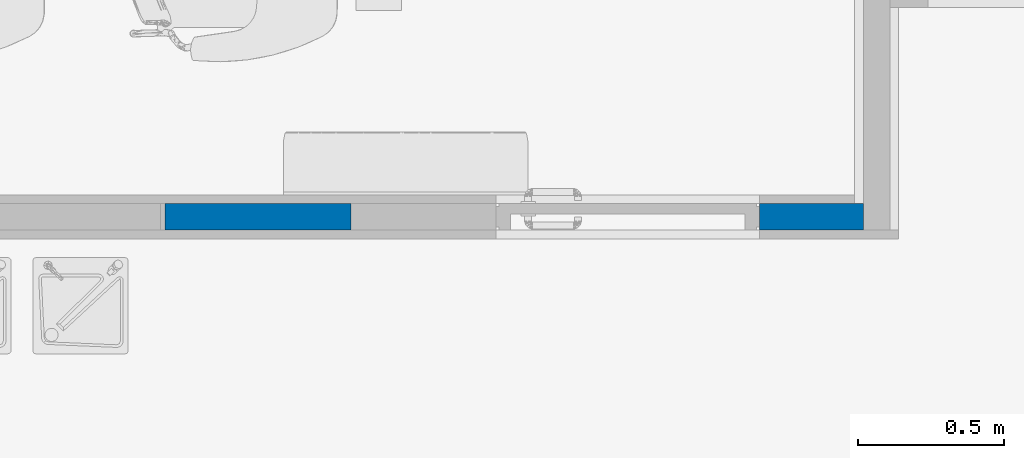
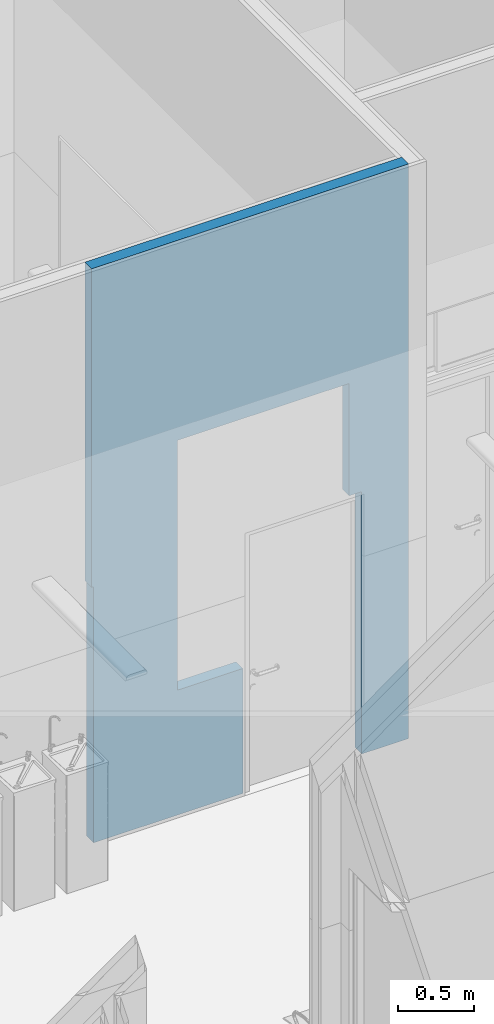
# One storey, part 20 of 155: 1 wall, 3 openings.
"""IFC2X3 building model written with IfcOpenShell, lengths in metres."""

from ifc_helpers import new_model, entity, si_unit, converted_unit, derived_unit, direction, frame, frame_2d, origin, place, context, subcontext, project, spatial, rectangle, extrude, material, layer, layer_set, layer_usage, type_object, element, save


model = new_model("IFC2X3")

# Units and contexts
model_context = context("Model", 3, precision=1e-05, world=origin(), true_north=direction((6.12303176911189e-17, 1.0)))
body_context = subcontext(model_context, "Body", "Model", "MODEL_VIEW")
ifc_project = project(units=[si_unit("LENGTHUNIT", "METRE"), si_unit("AREAUNIT", "SQUARE_METRE"), si_unit("VOLUMEUNIT", "CUBIC_METRE"), converted_unit("PLANEANGLEUNIT", "DEGREE", entity("IfcRatioMeasure", 0.0174532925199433), si_unit("PLANEANGLEUNIT", "RADIAN"), dimensions=[0, 0, 0, 0, 0, 0, 0]), si_unit("MASSUNIT", "GRAM", prefix="KILO"), derived_unit("MASSDENSITYUNIT", [(si_unit("MASSUNIT", "GRAM", prefix="KILO"), 1), (si_unit("LENGTHUNIT", "METRE"), -3)]), si_unit("TIMEUNIT", "SECOND"), si_unit("FREQUENCYUNIT", "HERTZ"), si_unit("THERMODYNAMICTEMPERATUREUNIT", "DEGREE_CELSIUS"), derived_unit("THERMALTRANSMITTANCEUNIT", [(si_unit("MASSUNIT", "GRAM", prefix="KILO"), 1), (si_unit("THERMODYNAMICTEMPERATUREUNIT", "KELVIN"), -1), (si_unit("TIMEUNIT", "SECOND"), -3)]), derived_unit("VOLUMETRICFLOWRATEUNIT", [(si_unit("LENGTHUNIT", "METRE"), 3), (si_unit("TIMEUNIT", "SECOND"), -1)]), si_unit("ELECTRICCURRENTUNIT", "AMPERE"), si_unit("ELECTRICVOLTAGEUNIT", "VOLT"), si_unit("POWERUNIT", "WATT"), si_unit("FORCEUNIT", "NEWTON", prefix="KILO"), si_unit("ILLUMINANCEUNIT", "LUX"), si_unit("LUMINOUSFLUXUNIT", "LUMEN"), si_unit("LUMINOUSINTENSITYUNIT", "CANDELA"), derived_unit("USERDEFINED", [(si_unit("MASSUNIT", "GRAM", prefix="KILO"), -1), (si_unit("LENGTHUNIT", "METRE"), -2), (si_unit("TIMEUNIT", "SECOND"), 3), (si_unit("LUMINOUSFLUXUNIT", "LUMEN"), 1)]), derived_unit("LINEARVELOCITYUNIT", [(si_unit("LENGTHUNIT", "METRE"), 1), (si_unit("TIMEUNIT", "SECOND"), -1)]), si_unit("PRESSUREUNIT", "PASCAL"), derived_unit("USERDEFINED", [(si_unit("LENGTHUNIT", "METRE"), -2), (si_unit("MASSUNIT", "GRAM", prefix="KILO"), 1), (si_unit("TIMEUNIT", "SECOND"), -2)])], contexts=[model_context])

# Site, building, storey
site_placement = place(None, frame((26.9889013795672, -17.5624287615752, 0.0)))
site = spatial("IfcSite", under=ifc_project, at=site_placement, Name="Default", CompositionType="ELEMENT")
building_placement = place(site_placement, origin())
building = spatial("IfcBuilding", under=site, at=building_placement, Name="C. C. L. Monsenhor Antônio Sampaio", CompositionType="ELEMENT")
storey_placement = place(building_placement, frame((0.0, 0.0, 1.19999999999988)))
storey = spatial("IfcBuildingStorey", under=building, at=storey_placement, Name="Nível 1.2", CompositionType="ELEMENT", Elevation=1.19999999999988)

# Wall, openings
ifc_material = material(Name="ALVENARIA")
ifc_layer = layer(ifc_material, 0.09)
ifc_layer_set = layer_set([ifc_layer], Name="Parede básica:ENucleo parede 15cm")
ifc_layer_usage = layer_usage(ifc_layer_set, "AXIS2", "POSITIVE", -0.045)
wall_type = type_object("IfcWallType", Name="Parede básica:ENucleo parede 15cm", PredefinedType="STANDARD", material=ifc_layer_set)
wall_placement = place(storey_placement, frame((2.20943400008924, -31.8780663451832, 0.0), z_axis=(0.0, 0.0, 1.0), x_axis=(-1.0, 0.0, 0.0)))
wall = element("IfcWallStandardCase", 1, at=wall_placement, inside=storey, type_object=wall_type, material=ifc_layer_usage, Name="Parede básica:ENucleo parede 15cm", ObjectType="Parede básica:ENucleo parede 15cm", context=body_context, shape_type="SweptSolid", body=[
    extrude(rectangle(XDim=2.39998629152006, YDim=0.0899999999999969, at=frame_2d((1.19999314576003, -4.19803081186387e-16), x_axis=(-1.0, 0.0))), origin(), (0.0, 0.0, 1.0), 4.60000000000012),
])
opening_1_placement = place(wall_placement, origin())
element("IfcOpeningElement", 2, at=opening_1_placement, cuts=wall, Name="Parede básica:ENucleo parede 15cm", ObjectType="Opening", context=body_context, shape_type="SweptSolid", body=[
    extrude(rectangle(XDim=2.05, YDim=1.85, at=frame_2d((0.0, 0.0), x_axis=(0.0, 1.0))), frame((3.30998629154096, -1.479, 1.025), z_axis=(0.0, 1.0, 0.0), x_axis=(-1.0, 0.0, 0.0)), (0.0, 0.0, 1.0), 3.048),
])
opening_2_placement = place(wall_placement, frame((1.255, 0.0449999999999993, 0.0)))
element("IfcOpeningElement", 3, at=opening_2_placement, cuts=wall, Name="Porta levantamento:90 x 211 AZUL:1", ObjectType="Opening", context=body_context, shape_type="SweptSolid", body=[
    extrude(rectangle(XDim=2.09999999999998, YDim=0.9, at=frame_2d((1.04999999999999, 0.45), x_axis=(1.0, 0.0))), frame((0.0, 0.0, 0.0), z_axis=(0.0, -1.0, 0.0), x_axis=(0.0, 0.0, 1.0)), (0.0, 0.0, 1.0), 0.09),
])
opening_3_placement = place(wall_placement, frame((2.20943400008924, -31.8780663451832, 0.0), z_axis=(0.0, 0.0, 1.0), x_axis=(-1.0, 0.0, 0.0)))
element("IfcOpeningElement", 4, at=opening_3_placement, cuts=wall, Name="Parede básica:ENucleo parede 15cm", ObjectType="Opening", context=body_context, shape_type="SweptSolid", body=[
    extrude(rectangle(XDim=2.0, YDim=1.30000000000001, at=frame_2d((1.66533453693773e-16, 0.0), x_axis=(1.0, 0.0))), frame((1.10943400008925, -30.3090663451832, 2.0), z_axis=(0.0, -1.0, 0.0), x_axis=(0.0, 0.0, 1.0)), (0.0, 0.0, 1.0), 3.048),
])

save(model, "model.ifc")
